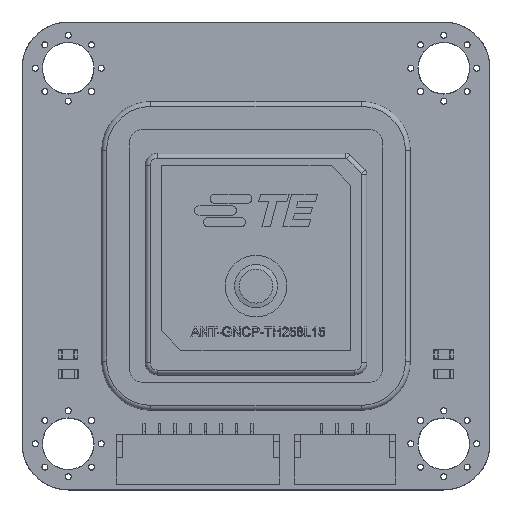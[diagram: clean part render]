
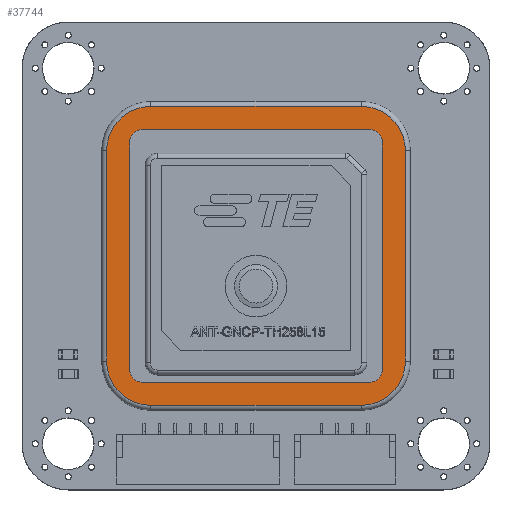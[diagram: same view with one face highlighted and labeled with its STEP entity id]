
A CAD part, top view. The second image highlights one B-rep face of the part: STEP entity #37744.
In plain terms, the highlighted planar face has unit normal (0, 0, 1) as drawn and (0, 1, 0) by its records, which use the part's own axes.
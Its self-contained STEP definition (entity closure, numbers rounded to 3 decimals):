
#560=CIRCLE('',#40021,3.6);
#561=CIRCLE('',#40022,3.6);
#562=CIRCLE('',#40023,3.6);
#563=CIRCLE('',#40024,3.6);
#564=CIRCLE('',#40025,1.);
#565=CIRCLE('',#40026,1.);
#566=CIRCLE('',#40027,1.);
#567=CIRCLE('',#40028,1.);
#1600=FACE_BOUND('',#4441,.T.);
#2365=FACE_OUTER_BOUND('',#4440,.T.);
#4440=EDGE_LOOP('',(#27073,#27074,#27075,#27076,#27077,#27078,#27079,#27080));
#4441=EDGE_LOOP('',(#27081,#27082,#27083,#27084,#27085,#27086,#27087,#27088));
#7681=LINE('',#54762,#12130);
#7682=LINE('',#54766,#12131);
#7683=LINE('',#54770,#12132);
#7684=LINE('',#54773,#12133);
#7685=LINE('',#54776,#12134);
#7686=LINE('',#54780,#12135);
#7687=LINE('',#54784,#12136);
#7688=LINE('',#54788,#12137);
#12130=VECTOR('',#44679,1.);
#12131=VECTOR('',#44682,1.);
#12132=VECTOR('',#44685,1.);
#12133=VECTOR('',#44688,1.);
#12134=VECTOR('',#44689,1.);
#12135=VECTOR('',#44692,1.);
#12136=VECTOR('',#44695,1.);
#12137=VECTOR('',#44698,1.);
#16074=VERTEX_POINT('',#54758);
#16075=VERTEX_POINT('',#54759);
#16076=VERTEX_POINT('',#54761);
#16077=VERTEX_POINT('',#54763);
#16078=VERTEX_POINT('',#54765);
#16079=VERTEX_POINT('',#54767);
#16080=VERTEX_POINT('',#54769);
#16081=VERTEX_POINT('',#54771);
#16082=VERTEX_POINT('',#54774);
#16083=VERTEX_POINT('',#54775);
#16084=VERTEX_POINT('',#54777);
#16085=VERTEX_POINT('',#54779);
#16086=VERTEX_POINT('',#54781);
#16087=VERTEX_POINT('',#54783);
#16088=VERTEX_POINT('',#54785);
#16089=VERTEX_POINT('',#54787);
#20155=EDGE_CURVE('',#16074,#16075,#560,.T.);
#20156=EDGE_CURVE('',#16075,#16076,#7681,.T.);
#20157=EDGE_CURVE('',#16076,#16077,#561,.T.);
#20158=EDGE_CURVE('',#16077,#16078,#7682,.T.);
#20159=EDGE_CURVE('',#16078,#16079,#562,.T.);
#20160=EDGE_CURVE('',#16079,#16080,#7683,.T.);
#20161=EDGE_CURVE('',#16080,#16081,#563,.T.);
#20162=EDGE_CURVE('',#16081,#16074,#7684,.T.);
#20163=EDGE_CURVE('',#16082,#16083,#7685,.T.);
#20164=EDGE_CURVE('',#16084,#16083,#564,.T.);
#20165=EDGE_CURVE('',#16084,#16085,#7686,.T.);
#20166=EDGE_CURVE('',#16086,#16085,#565,.T.);
#20167=EDGE_CURVE('',#16087,#16086,#7687,.T.);
#20168=EDGE_CURVE('',#16087,#16088,#566,.T.);
#20169=EDGE_CURVE('',#16089,#16088,#7688,.T.);
#20170=EDGE_CURVE('',#16082,#16089,#567,.T.);
#27073=ORIENTED_EDGE('',*,*,#20155,.T.);
#27074=ORIENTED_EDGE('',*,*,#20156,.T.);
#27075=ORIENTED_EDGE('',*,*,#20157,.T.);
#27076=ORIENTED_EDGE('',*,*,#20158,.T.);
#27077=ORIENTED_EDGE('',*,*,#20159,.T.);
#27078=ORIENTED_EDGE('',*,*,#20160,.T.);
#27079=ORIENTED_EDGE('',*,*,#20161,.T.);
#27080=ORIENTED_EDGE('',*,*,#20162,.T.);
#27081=ORIENTED_EDGE('',*,*,#20163,.T.);
#27082=ORIENTED_EDGE('',*,*,#20164,.F.);
#27083=ORIENTED_EDGE('',*,*,#20165,.T.);
#27084=ORIENTED_EDGE('',*,*,#20166,.F.);
#27085=ORIENTED_EDGE('',*,*,#20167,.F.);
#27086=ORIENTED_EDGE('',*,*,#20168,.T.);
#27087=ORIENTED_EDGE('',*,*,#20169,.F.);
#27088=ORIENTED_EDGE('',*,*,#20170,.F.);
#35267=PLANE('',#40020);
#37744=ADVANCED_FACE('',(#2365,#1600),#35267,.F.);
#40020=AXIS2_PLACEMENT_3D('',#54757,#44675,#44676);
#40021=AXIS2_PLACEMENT_3D('',#54760,#44677,#44678);
#40022=AXIS2_PLACEMENT_3D('',#54764,#44680,#44681);
#40023=AXIS2_PLACEMENT_3D('',#54768,#44683,#44684);
#40024=AXIS2_PLACEMENT_3D('',#54772,#44686,#44687);
#40025=AXIS2_PLACEMENT_3D('',#54778,#44690,#44691);
#40026=AXIS2_PLACEMENT_3D('',#54782,#44693,#44694);
#40027=AXIS2_PLACEMENT_3D('',#54786,#44696,#44697);
#40028=AXIS2_PLACEMENT_3D('',#54789,#44699,#44700);
#44675=DIRECTION('center_axis',(0.,-1.,0.));
#44676=DIRECTION('ref_axis',(0.,0.,-1.));
#44677=DIRECTION('center_axis',(0.,1.,0.));
#44678=DIRECTION('ref_axis',(0.,0.,-1.));
#44679=DIRECTION('',(1.,0.,0.));
#44680=DIRECTION('center_axis',(0.,1.,0.));
#44681=DIRECTION('ref_axis',(0.,0.,-1.));
#44682=DIRECTION('',(0.,0.,-1.));
#44683=DIRECTION('center_axis',(0.,1.,0.));
#44684=DIRECTION('ref_axis',(0.,0.,-1.));
#44685=DIRECTION('',(-1.,0.,0.));
#44686=DIRECTION('center_axis',(0.,1.,0.));
#44687=DIRECTION('ref_axis',(0.,0.,-1.));
#44688=DIRECTION('',(0.,0.,1.));
#44689=DIRECTION('',(0.,0.,-1.));
#44690=DIRECTION('center_axis',(0.,1.,0.));
#44691=DIRECTION('ref_axis',(0.,0.,1.));
#44692=DIRECTION('',(1.,0.,0.));
#44693=DIRECTION('center_axis',(0.,1.,0.));
#44694=DIRECTION('ref_axis',(0.,0.,1.));
#44695=DIRECTION('',(0.,0.,-1.));
#44696=DIRECTION('center_axis',(0.,-1.,0.));
#44697=DIRECTION('ref_axis',(0.,0.,1.));
#44698=DIRECTION('',(1.,0.,0.));
#44699=DIRECTION('center_axis',(0.,1.,0.));
#44700=DIRECTION('ref_axis',(0.,0.,1.));
#54757=CARTESIAN_POINT('Origin',(-8.535,4.,8.535));
#54758=CARTESIAN_POINT('',(-12.135,4.,8.535));
#54759=CARTESIAN_POINT('',(-8.535,4.,12.135));
#54760=CARTESIAN_POINT('Origin',(-8.535,4.,8.535));
#54761=CARTESIAN_POINT('',(8.535,4.,12.135));
#54762=CARTESIAN_POINT('',(-8.535,4.,12.135));
#54763=CARTESIAN_POINT('',(12.135,4.,8.535));
#54764=CARTESIAN_POINT('Origin',(8.535,4.,8.535));
#54765=CARTESIAN_POINT('',(12.135,4.,-8.535));
#54766=CARTESIAN_POINT('',(12.135,4.,8.535));
#54767=CARTESIAN_POINT('',(8.535,4.,-12.135));
#54768=CARTESIAN_POINT('Origin',(8.535,4.,-8.535));
#54769=CARTESIAN_POINT('',(-8.535,4.,-12.135));
#54770=CARTESIAN_POINT('',(-8.535,4.,-12.135));
#54771=CARTESIAN_POINT('',(-12.135,4.,-8.535));
#54772=CARTESIAN_POINT('Origin',(-8.535,4.,-8.535));
#54773=CARTESIAN_POINT('',(-12.135,4.,8.535));
#54774=CARTESIAN_POINT('',(-10.25,4.,9.25));
#54775=CARTESIAN_POINT('',(-10.25,4.,-9.25));
#54776=CARTESIAN_POINT('',(-10.25,4.,0.));
#54777=CARTESIAN_POINT('',(-9.25,4.,-10.25));
#54778=CARTESIAN_POINT('Origin',(-9.25,4.,-9.25));
#54779=CARTESIAN_POINT('',(9.25,4.,-10.25));
#54780=CARTESIAN_POINT('',(0.,4.,-10.25));
#54781=CARTESIAN_POINT('',(10.25,4.,-9.25));
#54782=CARTESIAN_POINT('Origin',(9.25,4.,-9.25));
#54783=CARTESIAN_POINT('',(10.25,4.,9.25));
#54784=CARTESIAN_POINT('',(10.25,4.,0.));
#54785=CARTESIAN_POINT('',(9.25,4.,10.25));
#54786=CARTESIAN_POINT('Origin',(9.25,4.,9.25));
#54787=CARTESIAN_POINT('',(-9.25,4.,10.25));
#54788=CARTESIAN_POINT('',(0.,4.,10.25));
#54789=CARTESIAN_POINT('Origin',(-9.25,4.,9.25));
